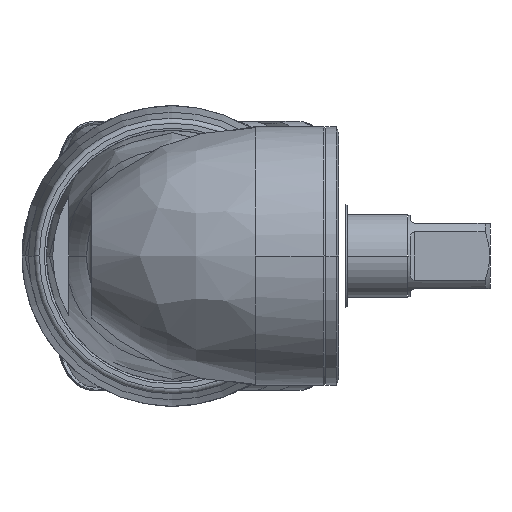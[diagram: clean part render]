
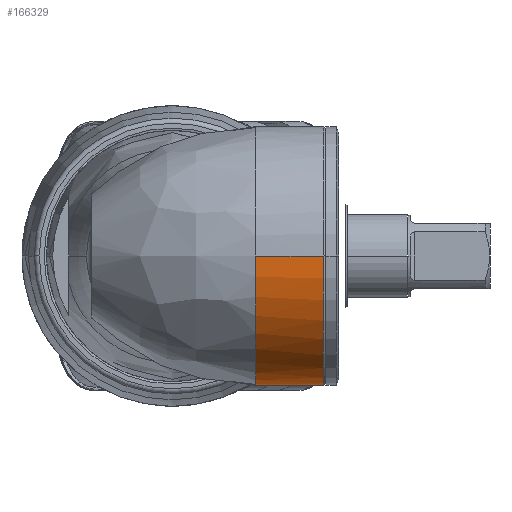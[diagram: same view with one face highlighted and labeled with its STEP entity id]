
A CAD part, left-side view. The second image highlights one B-rep face of the part: STEP entity #166329.
In plain terms, the highlighted cylindrical face has radius 25 mm (diameter 50 mm), a partial arc.
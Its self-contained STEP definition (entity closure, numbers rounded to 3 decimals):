
#165095=CARTESIAN_POINT('',(-149.43,-16.139,
-11.838));
#165164=CARTESIAN_POINT('',(-146.45,-21.5,
0.));
#165166=DIRECTION('',(0.,-1.,0.));
#165167=VECTOR('',#165166,7.7);
#165168=CARTESIAN_POINT('',(-146.45,-21.5,
0.));
#165169=LINE('',#165168,#165167);
#165175=DIRECTION('',(0.,-1.,0.));
#165176=VECTOR('',#165175,13.061);
#165177=CARTESIAN_POINT('',(-196.45,-16.139,0.));
#165178=LINE('',#165177,#165176);
#165204=CARTESIAN_POINT('',(-196.45,-16.139,0.));
#165205=CARTESIAN_POINT('',(-196.45,-16.139,-1.051));
#165206=CARTESIAN_POINT('',(-196.317,-16.139,
-3.153));
#165207=CARTESIAN_POINT('',(-195.723,-16.139,
-6.255));
#165208=CARTESIAN_POINT('',(-194.744,-16.139,
-9.259));
#165209=CARTESIAN_POINT('',(-193.394,-16.139,
-12.115));
#165210=CARTESIAN_POINT('',(-191.696,-16.139,
-14.779));
#165211=CARTESIAN_POINT('',(-189.676,-16.139,
-17.208));
#165212=CARTESIAN_POINT('',(-187.367,-16.139,
-19.364));
#165213=CARTESIAN_POINT('',(-184.805,-16.139,
-21.212));
#165214=CARTESIAN_POINT('',(-182.031,-16.139,
-22.724));
#165215=CARTESIAN_POINT('',(-179.089,-16.139,
-23.874));
#165216=CARTESIAN_POINT('',(-176.026,-16.139,
-24.645));
#165217=CARTESIAN_POINT('',(-172.89,-16.139,
-25.025));
#165218=CARTESIAN_POINT('',(-169.731,-16.139,
-25.007));
#165219=CARTESIAN_POINT('',(-166.599,-16.139,
-24.592));
#165220=CARTESIAN_POINT('',(-163.544,-16.139,
-23.787));
#165221=CARTESIAN_POINT('',(-160.615,-16.139,
-22.604));
#165222=CARTESIAN_POINT('',(-157.858,-16.139,
-21.061));
#165223=CARTESIAN_POINT('',(-155.317,-16.139,
-19.185));
#165224=CARTESIAN_POINT('',(-153.032,-16.139,
-17.003));
#165225=CARTESIAN_POINT('',(-151.04,-16.138,
-14.551));
#165226=CARTESIAN_POINT('',(-149.928,-16.139,
-12.763));
#165227=CARTESIAN_POINT('',(-149.43,-16.139,
-11.838));
#165229=CARTESIAN_POINT('',(-171.45,-29.2,0.));
#165230=DIRECTION('',(0.,-1.,0.));
#165231=DIRECTION('',(-1.,0.,0.));
#165232=AXIS2_PLACEMENT_3D('',#165229,#165230,#165231);
#165234=CARTESIAN_POINT('',(-146.45,-21.5,
0.));
#165235=CARTESIAN_POINT('',(-146.45,-21.5,
-0.773));
#165236=CARTESIAN_POINT('',(-146.522,-21.38,
-2.337));
#165237=CARTESIAN_POINT('',(-146.859,-20.812,
-4.715));
#165238=CARTESIAN_POINT('',(-147.437,-19.819,
-7.105));
#165239=CARTESIAN_POINT('',(-148.281,-18.325,
-9.51));
#165240=CARTESIAN_POINT('',(-149.022,-16.94,
-11.079));
#165241=CARTESIAN_POINT('',(-149.43,-16.139,
-11.838));
#165865=CARTESIAN_POINT('',(-196.45,-29.2,0.));
#165866=CARTESIAN_POINT('',(-146.45,-29.2,0.));
#165867=VERTEX_POINT('',#165865);
#165868=VERTEX_POINT('',#165866);
#165869=CARTESIAN_POINT('',(-196.45,-16.139,0.));
#165870=VERTEX_POINT('',#165869);
#165871=VERTEX_POINT('',#165095);
#165876=VERTEX_POINT('',#165164);
#166316=CARTESIAN_POINT('',(-171.45,17.76,0.));
#166317=DIRECTION('',(0.,-1.,0.));
#166318=DIRECTION('',(-1.,0.,0.));
#166319=AXIS2_PLACEMENT_3D('',#166316,#166317,#166318);
#166320=CYLINDRICAL_SURFACE('',#166319,25.);
#166321=ORIENTED_EDGE('',*,*,#166094,.F.);
#166322=ORIENTED_EDGE('',*,*,#166303,.T.);
#166324=ORIENTED_EDGE('',*,*,#166323,.T.);
#166325=ORIENTED_EDGE('',*,*,#166299,.F.);
#166326=ORIENTED_EDGE('',*,*,#166231,.T.);
#166327=EDGE_LOOP('',(#166321,#166322,#166324,#166325,#166326));
#166328=FACE_OUTER_BOUND('',#166327,.F.);
#165228=B_SPLINE_CURVE_WITH_KNOTS('',3,(#165204,#165205,#165206,#165207,#165208,
#165209,#165210,#165211,#165212,#165213,#165214,#165215,#165216,#165217,#165218,
#165219,#165220,#165221,#165222,#165223,#165224,#165225,#165226,#165227),
.UNSPECIFIED.,.F.,.F.,(4,1,1,1,1,1,1,1,1,1,1,1,1,1,1,1,1,1,1,1,1,4),(0.,
0.048,0.095,0.143,0.19,
0.238,0.286,0.333,0.381,
0.429,0.476,0.524,0.571,
0.619,0.667,0.714,0.762,
0.81,0.857,0.905,0.952,1.),
.UNSPECIFIED.);
#165233=CIRCLE('',#165232,25.);
#165242=B_SPLINE_CURVE_WITH_KNOTS('',3,(#165234,#165235,#165236,#165237,#165238,
#165239,#165240,#165241),.UNSPECIFIED.,.F.,.F.,(4,1,1,1,1,4),(0.,0.2,0.4,
0.6,0.8,1.),.UNSPECIFIED.);
#166094=EDGE_CURVE('',#165870,#165871,#165228,.T.);
#166231=EDGE_CURVE('',#165876,#165871,#165242,.T.);
#166299=EDGE_CURVE('',#165876,#165868,#165169,.T.);
#166303=EDGE_CURVE('',#165870,#165867,#165178,.T.);
#166323=EDGE_CURVE('',#165867,#165868,#165233,.T.);
#166329=ADVANCED_FACE('',(#166328),#166320,.T.);
